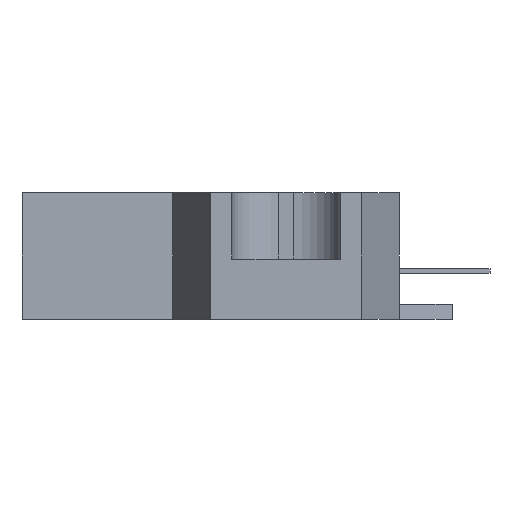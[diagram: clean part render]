
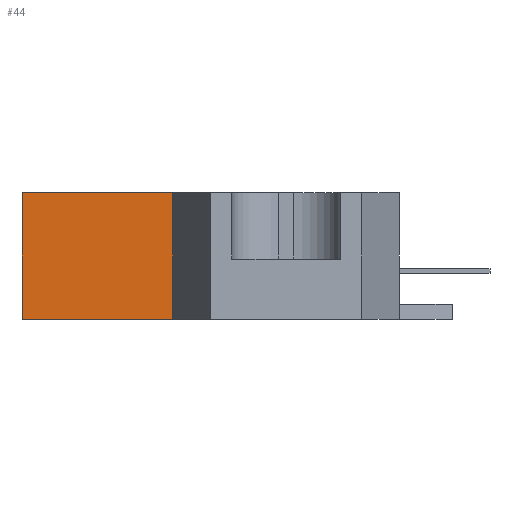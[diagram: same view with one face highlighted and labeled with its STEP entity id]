
A CAD part, left-side view. The second image highlights one B-rep face of the part: STEP entity #44.
In plain terms, the highlighted planar face has unit normal (-1, 0, 0).
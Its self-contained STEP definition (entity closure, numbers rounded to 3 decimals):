
#27 = DIRECTION ( 'NONE',  ( 0., 1., 0. ) ) ;
#32 = EDGE_LOOP ( 'NONE', ( #46, #97, #85, #86 ) ) ;
#44 = ADVANCED_FACE ( 'NONE', ( #734 ), #732, .F. ) ;
#46 = ORIENTED_EDGE ( 'NONE', *, *, #1965, .F. ) ;
#85 = ORIENTED_EDGE ( 'NONE', *, *, #89, .T. ) ;
#86 = ORIENTED_EDGE ( 'NONE', *, *, #87, .F. ) ;
#87 = EDGE_CURVE ( 'NONE', #1953, #90, #801, .T. ) ;
#89 = EDGE_CURVE ( 'NONE', #150, #90, #797, .T. ) ;
#90 = VERTEX_POINT ( 'NONE', #856 ) ;
#97 = ORIENTED_EDGE ( 'NONE', *, *, #148, .T. ) ;
#148 = EDGE_CURVE ( 'NONE', #1963, #150, #909, .T. ) ;
#150 = VERTEX_POINT ( 'NONE', #901 ) ;
#729 = DIRECTION ( 'NONE',  ( 1., 0., 0. ) ) ;
#730 = CARTESIAN_POINT ( 'NONE',  ( -7., 25., 51.543 ) ) ;
#731 = AXIS2_PLACEMENT_3D ( 'NONE', #730, #729, #27 ) ;
#732 = PLANE ( 'NONE',  #731 ) ;
#734 = FACE_OUTER_BOUND ( 'NONE', #32, .T. ) ;
#796 = CARTESIAN_POINT ( 'NONE',  ( -7., 0., -4.2 ) ) ;
#797 = LINE ( 'NONE', #796, #858 ) ;
#798 = DIRECTION ( 'NONE',  ( 0., 0., -1. ) ) ;
#799 = VECTOR ( 'NONE', #798, 1000. ) ;
#800 = CARTESIAN_POINT ( 'NONE',  ( -7., 15., 51.543 ) ) ;
#801 = LINE ( 'NONE', #800, #799 ) ;
#856 = CARTESIAN_POINT ( 'NONE',  ( -7., 15., -4.2 ) ) ;
#857 = DIRECTION ( 'NONE',  ( 0., -1., 0. ) ) ;
#858 = VECTOR ( 'NONE', #857, 1000. ) ;
#901 = CARTESIAN_POINT ( 'NONE',  ( -7., 25., -4.2 ) ) ;
#906 = DIRECTION ( 'NONE',  ( 0., 0., -1. ) ) ;
#907 = VECTOR ( 'NONE', #906, 1000. ) ;
#908 = CARTESIAN_POINT ( 'NONE',  ( -7., 25., 51.543 ) ) ;
#909 = LINE ( 'NONE', #908, #907 ) ;
#1779 = CARTESIAN_POINT ( 'NONE',  ( -7., 15., 4.2 ) ) ;
#1811 = DIRECTION ( 'NONE',  ( 0., -1., 0. ) ) ;
#1812 = VECTOR ( 'NONE', #1811, 1000. ) ;
#1813 = CARTESIAN_POINT ( 'NONE',  ( -7., 0., 4.2 ) ) ;
#1814 = LINE ( 'NONE', #1813, #1812 ) ;
#1815 = CARTESIAN_POINT ( 'NONE',  ( -7., 25., 4.2 ) ) ;
#1953 = VERTEX_POINT ( 'NONE', #1779 ) ;
#1963 = VERTEX_POINT ( 'NONE', #1815 ) ;
#1965 = EDGE_CURVE ( 'NONE', #1963, #1953, #1814, .T. ) ;
